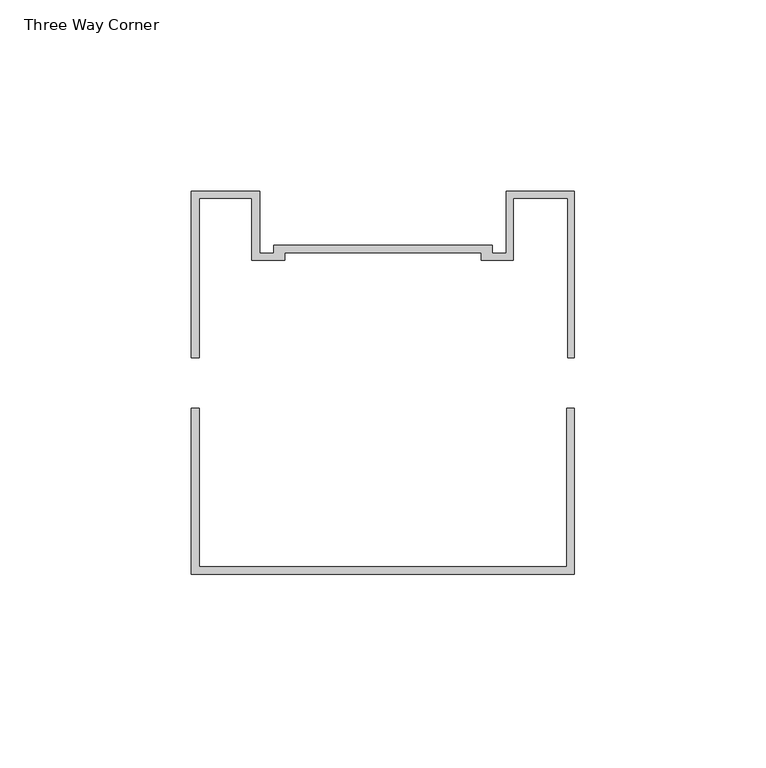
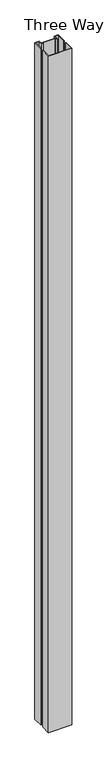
"""IFC4 building model written with IfcOpenShell, lengths in millimetres: proxy geometry, Connection-Corner-Teknion-OptosLP-Three_Way_FZCA3B_G : Three Way Corner."""

from ifc_helpers import new_model, si_unit, origin, origin_with_axes, place, context, project, spatial, polyline, outline, extrude, source, transform, mapped, element, save


def three_way_corner_3e60445e(model_context):
    return source(origin(), model_context, "Body", "SweptSolid", [
        extrude(outline(polyline([(50.00625, -6.5668339), (50.00625, -50.00635), (-50.00625, -50.00635), (-50.00625, -6.5668339), (-47.9739919, -6.5668339), (-47.9739919, -47.9740919), (47.9739919, -47.9740919), (47.9739919, -6.5668339), (50.00625, -6.5668339)])), origin_with_axes(), (0.0, 0.0, 1.0), 3048.0),
        extrude(outline(polyline([(-50.00625, 50.00635), (-32.2239919, 50.00635), (-32.2239919, 33.8753016), (-28.578629, 33.8753016), (-28.578629, 36.004572), (28.578629, 36.004572), (28.578629, 33.8753016), (32.1731855, 33.8753016), (32.1731855, 50.00635), (50.00625, 50.00635), (50.00625, 6.5668339), (48.2281242, 6.5668339), (48.2281242, 48.2281242), (34.0023178, 48.2281242), (34.0023178, 32.0970758), (25.6192532, 32.0970758), (25.6192532, 33.9723139), (-25.6192532, 33.9723139), (-25.6192532, 32.0970758), (-34.25625, 32.0970758), (-34.25625, 48.2281242), (-47.9739919, 48.2281242), (-47.9739919, 6.5668339), (-50.00625, 6.5668339), (-50.00625, 50.00635)])), origin_with_axes(), (0.0, 0.0, 1.0), 3048.0),
    ])


if __name__ == "__main__":
    model = new_model("IFC4")
    model_context = context("Model", 3, world=origin())
    ifc_project = project(units=[si_unit("LENGTHUNIT", "METRE", prefix="MILLI")], contexts=[model_context])
    site = spatial("IfcSite", under=ifc_project)
    building = spatial("IfcBuilding", under=site)
    placement = place(None, origin())
    three_way_corner_shape = three_way_corner_3e60445e(model_context)
    element("IfcBuildingElementProxy", 1, Name="Connection-Corner-Teknion-OptosLP-Three_Way_FZCA3B_G : Three Way Corner", ObjectType="Connection-Corner-Teknion-OptosLP-Three_Way_FZCA3B_G : Three Way Corner", at=placement, inside=building, context=model_context, shape_type="MappedRepresentation", body=[
        mapped(three_way_corner_shape, transform((0.0, 0.0, 0.0), x_axis=(1.0, 0.0, 0.0), y_axis=(0.0, 1.0, 0.0), z_axis=(0.0, 0.0, 1.0))),
    ])
    save(model, "model.ifc")
